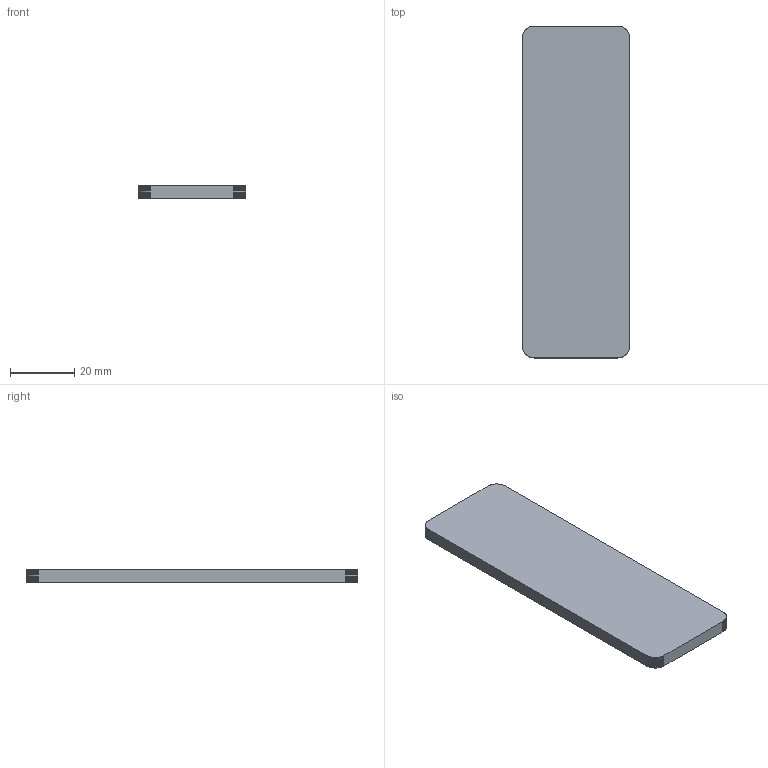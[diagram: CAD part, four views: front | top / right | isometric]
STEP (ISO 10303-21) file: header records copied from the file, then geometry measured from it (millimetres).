
FILE_DESCRIPTION(('Designed by EasyEDA Pro'),'2;1');
FILE_NAME('Open CASCADE Shape Model','2026-10-25T11:58:53',('Author'),( 'Open CASCADE'),'Open CASCADE STEP processor 7.8','Open CASCADE 7.8' ,'Unknown');
FILE_SCHEMA(('AUTOMOTIVE_DESIGN { 1 0 10303 214 1 1 1 1 }'));
Length unit declared in the file: millimetre
Products named in the file (1): Open CASCADE STEP translator 7.8 1
Bounding box: 33.5 x 103.5 x 4 mm (x, y, z)
Volume: 6164.5 mm3; surface area: 8682.1 mm2
Topology: 1 solids, 1 shells, 226 faces, 648 edges, 432 vertices
Faces by surface type: bspline 226
Entity records: 18514 total; most frequent: CARTESIAN_POINT 10057, B_SPLINE_CURVE_WITH_KNOTS 1912, ORIENTED_EDGE 1296, PCURVE 1296, DEFINITIONAL_REPRESENTATION 1296, EDGE_CURVE 648, SURFACE_CURVE 640, VERTEX_POINT 432
